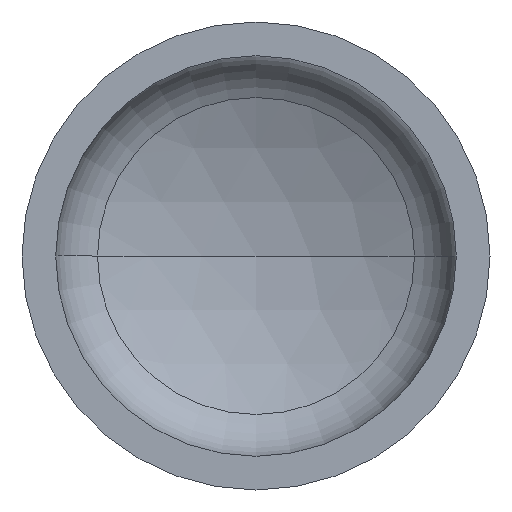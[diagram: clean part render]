
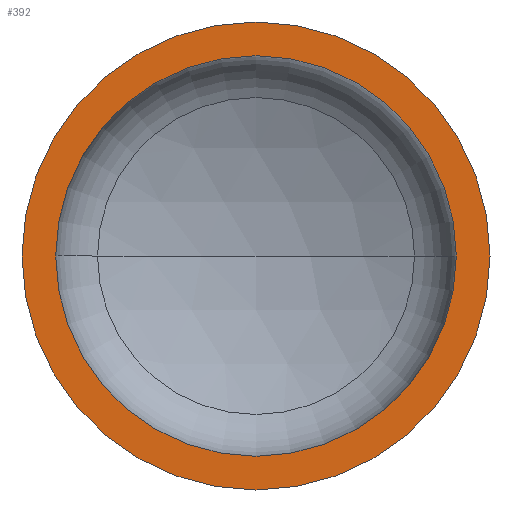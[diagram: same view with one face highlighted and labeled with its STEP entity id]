
A CAD part, front view. The second image highlights one B-rep face of the part: STEP entity #392.
In plain terms, the highlighted planar face has unit normal (0, -1, 0).
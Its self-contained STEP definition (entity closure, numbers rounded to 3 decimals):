
#16 = EDGE_LOOP ( 'NONE', ( #32, #97 ) ) ;
#32 = ORIENTED_EDGE ( 'NONE', *, *, #105, .T. ) ;
#46 = VERTEX_POINT ( 'NONE', #366 ) ;
#49 = VERTEX_POINT ( 'NONE', #369 ) ;
#50 = AXIS2_PLACEMENT_3D ( 'NONE', #179, #176, #175 ) ;
#57 = VERTEX_POINT ( 'NONE', #243 ) ;
#65 = EDGE_LOOP ( 'NONE', ( #108, #139 ) ) ;
#70 = AXIS2_PLACEMENT_3D ( 'NONE', #199, #200, #292 ) ;
#75 = AXIS2_PLACEMENT_3D ( 'NONE', #296, #295, #293 ) ;
#94 = AXIS2_PLACEMENT_3D ( 'NONE', #323, #319, #317 ) ;
#95 = VERTEX_POINT ( 'NONE', #229 ) ;
#97 = ORIENTED_EDGE ( 'NONE', *, *, #118, .T. ) ;
#103 = CIRCLE ( 'NONE', #94, 500. ) ;
#105 = EDGE_CURVE ( 'NONE', #46, #95, #103, .T. ) ;
#108 = ORIENTED_EDGE ( 'NONE', *, *, #121, .F. ) ;
#118 = EDGE_CURVE ( 'NONE', #95, #46, #316, .T. ) ;
#121 = EDGE_CURVE ( 'NONE', #49, #57, #185, .T. ) ;
#136 = PLANE ( 'NONE',  #256 ) ;
#139 = ORIENTED_EDGE ( 'NONE', *, *, #313, .F. ) ;
#163 = DIRECTION ( 'NONE',  ( 0., 1., 0. ) ) ;
#175 = DIRECTION ( 'NONE',  ( 1., 0., 0. ) ) ;
#176 = DIRECTION ( 'NONE',  ( 0., -1., 0. ) ) ;
#179 = CARTESIAN_POINT ( 'NONE',  ( 0., 0., 0. ) ) ;
#185 = CIRCLE ( 'NONE', #70, 428. ) ;
#199 = CARTESIAN_POINT ( 'NONE',  ( 0., 0., 0. ) ) ;
#200 = DIRECTION ( 'NONE',  ( 0., -1., 0. ) ) ;
#229 = CARTESIAN_POINT ( 'NONE',  ( -500., 0., 0. ) ) ;
#243 = CARTESIAN_POINT ( 'NONE',  ( -428., 0., 0. ) ) ;
#256 = AXIS2_PLACEMENT_3D ( 'NONE', #311, #163, #336 ) ;
#291 = CIRCLE ( 'NONE', #50, 428. ) ;
#292 = DIRECTION ( 'NONE',  ( 1., 0., 0. ) ) ;
#293 = DIRECTION ( 'NONE',  ( 1., 0., 0. ) ) ;
#295 = DIRECTION ( 'NONE',  ( 0., -1., 0. ) ) ;
#296 = CARTESIAN_POINT ( 'NONE',  ( 0., 0., 0. ) ) ;
#311 = CARTESIAN_POINT ( 'NONE',  ( -500., 0., 0. ) ) ;
#313 = EDGE_CURVE ( 'NONE', #57, #49, #291, .T. ) ;
#316 = CIRCLE ( 'NONE', #75, 500. ) ;
#317 = DIRECTION ( 'NONE',  ( 1., 0., 0. ) ) ;
#319 = DIRECTION ( 'NONE',  ( 0., -1., 0. ) ) ;
#322 = FACE_BOUND ( 'NONE', #65, .T. ) ;
#323 = CARTESIAN_POINT ( 'NONE',  ( 0., 0., 0. ) ) ;
#336 = DIRECTION ( 'NONE',  ( -1., 0., 0. ) ) ;
#366 = CARTESIAN_POINT ( 'NONE',  ( 500., 0., 0. ) ) ;
#369 = CARTESIAN_POINT ( 'NONE',  ( 428., 0., 0. ) ) ;
#379 = FACE_OUTER_BOUND ( 'NONE', #16, .T. ) ;
#392 = ADVANCED_FACE ( 'NONE', ( #322, #379 ), #136, .F. ) ;
